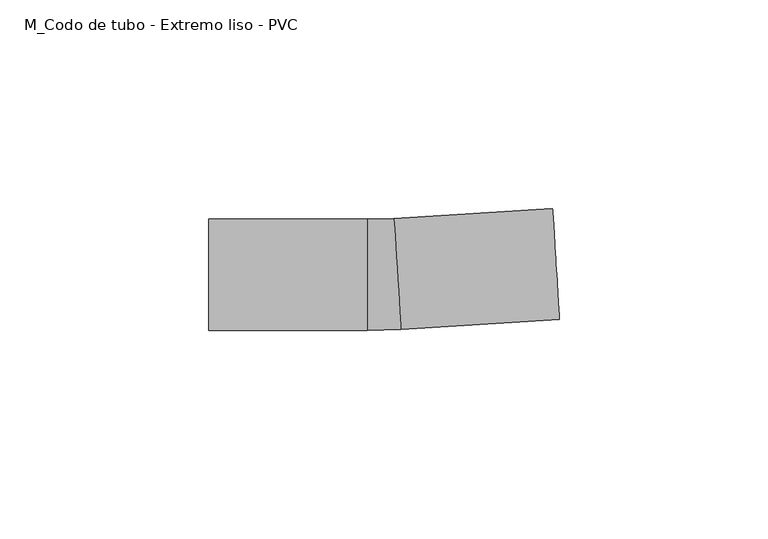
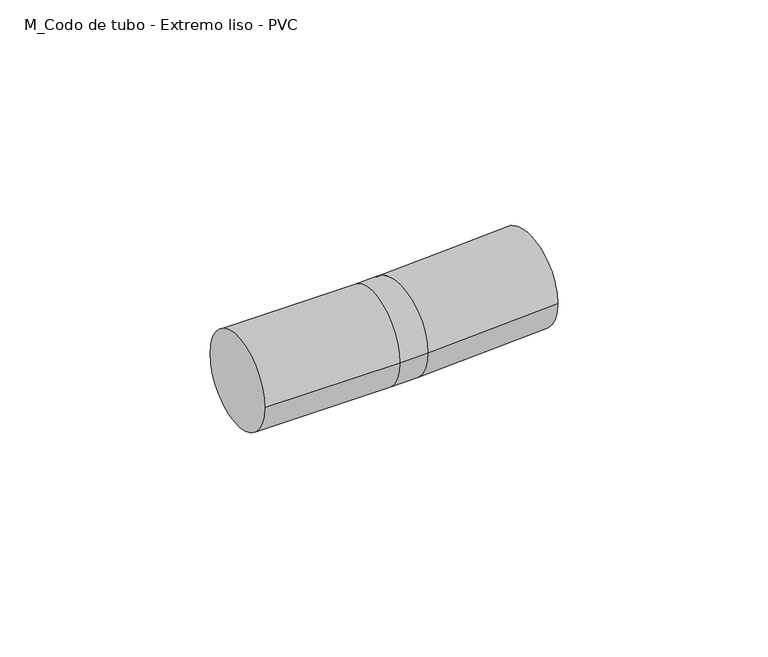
"""IFC4 building model written with IfcOpenShell, lengths in millimetres: cable carrier fitting geometry, M_Codo de tubo - Extremo liso - PVC : CODO ILUMINACION."""

from ifc_helpers import new_model, si_unit, point, frame, origin, place, context, project, spatial, circle_curve, ellipse_curve, trimmed, source, transform, mapped, element, save
from ifc_brep_helpers import plane_surface, cylinder_surface, revolved_surface, advanced_brep


def m_codo_de_tubo_extremo_liso_pvc_8f1ddfe3(model_context):
    return source(origin(), model_context, "Body", "AdvancedBrep", [
        advanced_brep(
        [(-41.7034456, -13.335, 0.0), (-41.7034456, 13.335, 0.0), (-3.6034456, -13.335, 0.0), (-3.6034456, 13.335, 0.0), (2.7563206, 13.5354993, 0.0), (4.4362588, -13.0815386, 0.0), (42.4605987, -10.6816268, 0.0), (40.7806605, 15.9354111, 0.0)],
        [
            (0, 1, circle_curve(frame((-41.7034456, 0.0, 0.0), z_axis=(-1.0, 0.0, 0.0), x_axis=(0.0, 1.0, 0.0)), 13.335)),
            (1, 0, circle_curve(frame((-41.7034456, 0.0, 0.0), z_axis=(-1.0, 0.0, 0.0), x_axis=(0.0, 1.0, 0.0)), 13.335)),
            (0, 2),
            (2, 3, circle_curve(frame((-3.6034456, 0.0, 0.0), z_axis=(-1.0, 0.0, 0.0), x_axis=(0.0, 1.0, 0.0)), 13.335)),
            (3, 1),
            (3, 2, circle_curve(frame((-3.6034456, 0.0, 0.0), z_axis=(-1.0, 0.0, 0.0), x_axis=(0.0, 1.0, 0.0)), 13.335)),
            (4, 3, circle_curve(frame((-3.6034456, 114.3, 0.0), z_axis=(0.0, 0.0, -1.0), x_axis=(0.0, -1.0, 0.0)), 100.965)),
            (2, 5, circle_curve(frame((-3.6034456, 114.3, 0.0), z_axis=(0.0, 0.0, 1.0), x_axis=(0.0, -1.0, 0.0)), 127.635)),
            (5, 4, circle_curve(frame((3.5962897, 0.2269804, 0.0), z_axis=(-0.9980141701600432, -0.06298980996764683, 0.0), x_axis=(-0.06298980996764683, 0.9980141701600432, 0.0)), 13.335)),
            (4, 5, circle_curve(frame((3.5962897, 0.2269804, 0.0), z_axis=(-0.9980141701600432, -0.06298980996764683, 0.0), x_axis=(-0.06298980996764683, 0.9980141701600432, 0.0)), 13.335)),
            (6, 7, circle_curve(frame((41.6206296, 2.6268921, 0.0), z_axis=(0.9980141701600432, 0.06298980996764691, 0.0), x_axis=(-0.06298980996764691, 0.9980141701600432, 0.0)), 13.335)),
            (7, 6, circle_curve(frame((41.6206296, 2.6268921, 0.0), z_axis=(0.9980141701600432, 0.06298980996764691, 0.0), x_axis=(-0.06298980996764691, 0.9980141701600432, 0.0)), 13.335)),
            (5, 6),
            (7, 4),
        ],
        [
            plane_surface(frame((-41.7034456, 0.0, 0.0), z_axis=(-1.0, 0.0, 0.0), x_axis=(0.0, 0.0, 1.0))),
            cylinder_surface(frame((-41.7034456, 0.0, 0.0), z_axis=(-1.0, 0.0, 0.0), x_axis=(0.0, 1.0, 0.0)), 13.335),
            revolved_surface(trimmed(ellipse_curve(frame((-3.6034456, 0.0, 0.0), z_axis=(-1.0, 0.0, 0.0), x_axis=(0.0, 1.0, 0.0)), 13.335, 13.335), [point((-3.6034456, -13.335, 0.0))], [point((-3.6034456, 13.335, 0.0))], True, "CARTESIAN"), (-3.6034456, 114.3, 0.0), (0.0, 0.0, 1.0)),
            revolved_surface(trimmed(ellipse_curve(frame((-3.6034456, 0.0, 0.0), z_axis=(-1.0, 0.0, 0.0), x_axis=(0.0, 1.0, 0.0)), 13.335, 13.335), [point((-3.6034456, 13.335, 0.0))], [point((-3.6034456, -13.335, 0.0))], True, "CARTESIAN"), (-3.6034456, 114.3, 0.0), (0.0, 0.0, 1.0)),
            plane_surface(frame((41.6206296, 2.6268921, 0.0), z_axis=(0.9980141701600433, 0.06298980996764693, 0.0), x_axis=(0.0, 0.0, 1.0))),
            cylinder_surface(frame((3.5962897, 0.2269804, 0.0), z_axis=(-0.9980141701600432, -0.06298980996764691, 0.0), x_axis=(-0.06298980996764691, 0.9980141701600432, 0.0)), 13.335),
        ],
        [
            (0, [[1, 2]]),
            (1, [[-1, 3, 4, 5]]),
            (1, [[-2, -5, 6, -3]]),
            (2, [[7, -4, 8, 9]]),
            (3, [[-8, -6, -7, 10]]),
            (4, [[11, 12]]),
            (5, [[-9, 13, -12, 14]]),
            (5, [[-10, -14, -11, -13]]),
        ],
    ),
    ])


if __name__ == "__main__":
    model = new_model("IFC4")
    model_context = context("Model", 3, world=origin())
    ifc_project = project(units=[si_unit("LENGTHUNIT", "METRE", prefix="MILLI")], contexts=[model_context])
    site = spatial("IfcSite", under=ifc_project)
    building = spatial("IfcBuilding", under=site)
    placement = place(None, origin())
    m_codo_de_tubo_extremo_liso_pvc_shape = m_codo_de_tubo_extremo_liso_pvc_8f1ddfe3(model_context)
    element("IfcCableCarrierFitting", 1, ObjectType="M_Codo de tubo - Extremo liso - PVC : CODO ILUMINACION", at=placement, inside=building, context=model_context, shape_type="MappedRepresentation", body=[
        mapped(m_codo_de_tubo_extremo_liso_pvc_shape, transform((0.0, 0.0, 0.0), x_axis=(1.0, 0.0, 0.0), y_axis=(0.0, 1.0, 0.0), z_axis=(0.0, 0.0, 1.0))),
    ])
    save(model, "model.ifc")
